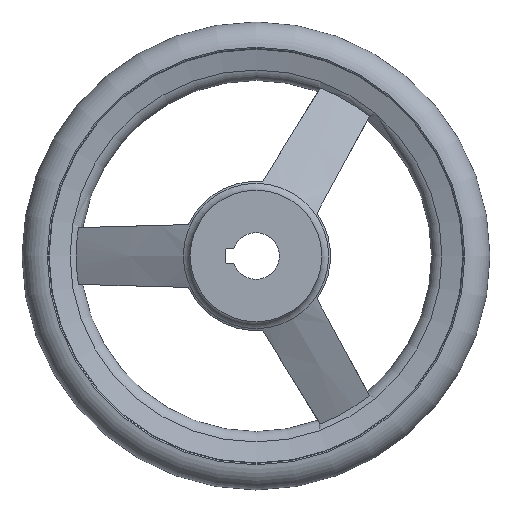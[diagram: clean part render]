
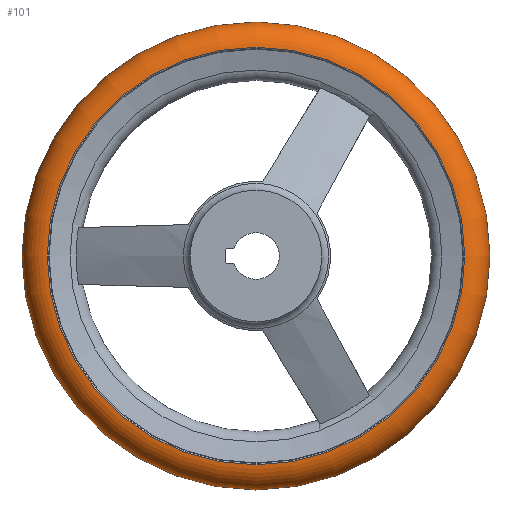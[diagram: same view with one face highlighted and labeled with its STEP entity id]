
A CAD part, left-side view. The second image highlights one B-rep face of the part: STEP entity #101.
In plain terms, the highlighted toroidal (fillet/blend) face has major radius 71 mm and minor radius 9 mm.
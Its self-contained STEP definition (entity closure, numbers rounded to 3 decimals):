
#101 = ADVANCED_FACE( '', ( #180, #181, #182 ), #183, .T. );
#180 = FACE_BOUND( '', #274, .T. );
#181 = FACE_OUTER_BOUND( '', #275, .T. );
#182 = FACE_OUTER_BOUND( '', #276, .T. );
#183 = TOROIDAL_SURFACE( '', #277, 71., 9. );
#274 = VERTEX_LOOP( '', #506 );
#275 = EDGE_LOOP( '', ( #507 ) );
#276 = EDGE_LOOP( '', ( #508 ) );
#277 = AXIS2_PLACEMENT_3D( '', #509, #510, #511 );
#506 = VERTEX_POINT( '', #638 );
#507 = ORIENTED_EDGE( '', *, *, #637, .T. );
#508 = ORIENTED_EDGE( '', *, *, #639, .F. );
#509 = CARTESIAN_POINT( '', ( 43., 0., 0. ) );
#510 = DIRECTION( '', ( 1., 0., 0. ) );
#511 = DIRECTION( '', ( 0., 1., 0. ) );
#637 = EDGE_CURVE( '', #770, #770, #771, .T. );
#638 = CARTESIAN_POINT( '', ( 43., 80., 0. ) );
#639 = EDGE_CURVE( '', #772, #772, #773, .T. );
#770 = VERTEX_POINT( '', #1167 );
#771 = CIRCLE( '', #1168, 71.375 );
#772 = VERTEX_POINT( '', #1169 );
#773 = CIRCLE( '', #1170, 71.375 );
#1167 = CARTESIAN_POINT( '', ( 34.008, 71.375, 0. ) );
#1168 = AXIS2_PLACEMENT_3D( '', #1295, #1296, #1297 );
#1169 = CARTESIAN_POINT( '', ( 51.992, 71.375, 0. ) );
#1170 = AXIS2_PLACEMENT_3D( '', #1298, #1299, #1300 );
#1295 = CARTESIAN_POINT( '', ( 34.008, 0., 0. ) );
#1296 = DIRECTION( '', ( 1., 0., 0. ) );
#1297 = DIRECTION( '', ( 0., 1., 0. ) );
#1298 = CARTESIAN_POINT( '', ( 51.992, 0., 0. ) );
#1299 = DIRECTION( '', ( 1., 0., 0. ) );
#1300 = DIRECTION( '', ( 0., 1., 0. ) );
